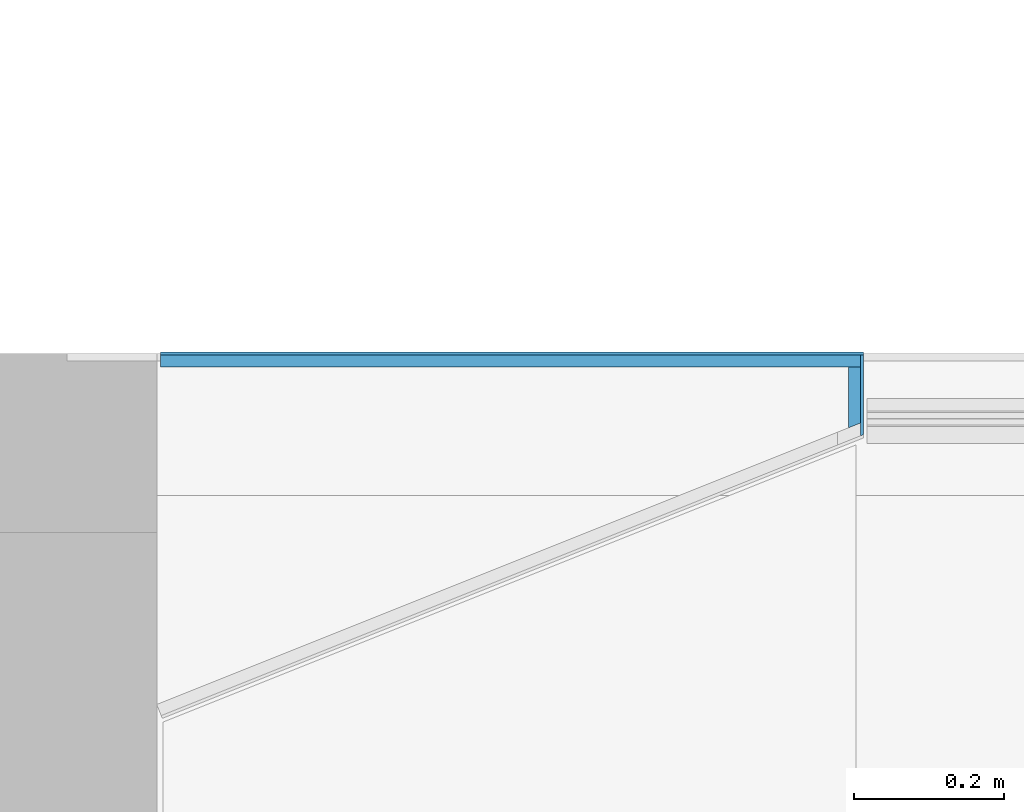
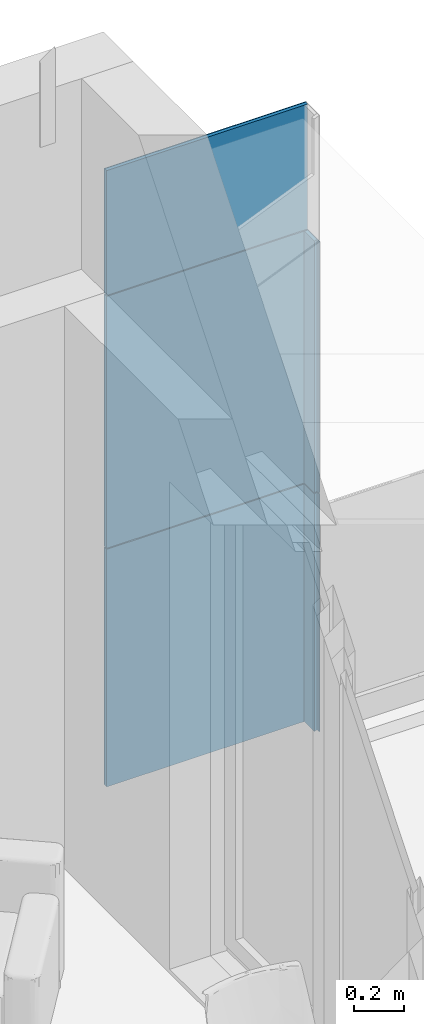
# One storey, part 13 of 57: 10 building element parts, 2 elements without a shape of their own.
"""IFC2X3 building model written with IfcOpenShell, lengths in millimetres."""

import ifcopenshell
import ifcopenshell.guid

model = None  # the IFC model being written
_history = None  # IfcOwnerHistory: only IFC2X3 demands one
_inside = {}  # id of a spatial element -> (the spatial element, [elements in it])
_under = {}  # id of a project, library or spatial element -> (it, [spatial elements below it])
_declared = {}  # id of a project -> (the project, [libraries it declares])
_typed = {}  # id of a type object -> (the type object, [elements of that type])
_made_of = {}  # id of a material, layer set ... -> (it, [elements and type objects made of it])


def new_model(schema):
    """Start an empty IFC model of exactly this schema.

    Asked for "IFC4X3", IfcOpenShell would pick the latest addendum, in which some entities
    have other attributes; the version numbers below select the first issue.
    IFC2X3 requires an IfcOwnerHistory on every rooted entity: one is made here for all.
    """
    global model, _history
    if schema == "IFC4X3":
        model = ifcopenshell.file(schema_version=(4, 3, 0, 0))
    else:
        model = ifcopenshell.file(schema=schema)
    _inside.clear()
    _under.clear()
    _declared.clear()
    _typed.clear()
    _made_of.clear()
    _history = None
    if model.schema == "IFC2X3":
        org = make("IfcOrganization", Name="unknown")
        user = make(
            "IfcPersonAndOrganization",
            ThePerson=make("IfcPerson", FamilyName="unknown"),
            TheOrganization=org,
        )
        app = make(
            "IfcApplication",
            ApplicationDeveloper=org,
            Version="unknown",
            ApplicationFullName="unknown",
            ApplicationIdentifier="unknown",
        )
        _history = make(
            "IfcOwnerHistory",
            OwningUser=user,
            OwningApplication=app,
            ChangeAction="ADDED",
            CreationDate=0,
        )
    return model


def make(cls, **values):
    """One entity of the class cls with the attributes given. An attribute that is None is left unset."""
    return model.create_entity(
        cls, **{name: value for name, value in values.items() if value is not None}
    )


def entity(cls, *values):
    """Any entity or typed value of the class cls, its attributes in the order of the schema. None: left unset."""
    e = model.create_entity(cls)
    for i, value in enumerate(values):
        if value is not None:
            e[i] = value
    return e


def rooted(cls, **values):
    """An entity with a GlobalId (a new one), such as an element, a storey or a relation."""
    return make(cls, GlobalId=ifcopenshell.guid.new(), OwnerHistory=_history, **values)


def si_unit(unit_type, name, prefix=None):
    """IfcSIUnit, for example si_unit("LENGTHUNIT", "METRE", prefix="MILLI")."""
    return make("IfcSIUnit", UnitType=unit_type, Prefix=prefix, Name=name)


def converted_unit(unit_type, name, factor, base, dimensions=None, offset=None):
    """IfcConversionBasedUnit, such as the inch: factor (a typed value) times the base unit."""
    return make(
        "IfcConversionBasedUnit"
        if offset is None
        else "IfcConversionBasedUnitWithOffset",
        ConversionOffset=offset,
        Dimensions=None
        if dimensions is None
        else entity("IfcDimensionalExponents", *dimensions),
        UnitType=unit_type,
        Name=name,
        ConversionFactor=make(
            "IfcMeasureWithUnit", ValueComponent=factor, UnitComponent=base
        ),
    )


def assignment(units):
    """IfcUnitAssignment: the units of a project."""
    return None if units is None else make("IfcUnitAssignment", Units=units)


def point(xyz):
    """IfcCartesianPoint."""
    return None if xyz is None else make("IfcCartesianPoint", Coordinates=xyz)


def direction(xyz):
    """IfcDirection."""
    return None if xyz is None else make("IfcDirection", DirectionRatios=xyz)


def frame(location, z_axis=None, x_axis=None):
    """IfcAxis2Placement3D, a coordinate frame: its origin and axes. An axis left out is left unset."""
    return make(
        "IfcAxis2Placement3D",
        Location=point(location),
        Axis=direction(z_axis),
        RefDirection=direction(x_axis),
    )


def frame_2d(location, x_axis=None):
    """IfcAxis2Placement2D, a coordinate frame in the plane: its origin and x axis."""
    return make(
        "IfcAxis2Placement2D", Location=point(location), RefDirection=direction(x_axis)
    )


def origin():
    """The frame at (0, 0, 0) with its axes left unset."""
    return frame((0.0, 0.0, 0.0))


def origin_2d_with_axis():
    """The frame at (0, 0) in the plane with the x axis (1, 0) written out."""
    return frame_2d((0.0, 0.0), x_axis=(1.0, 0.0))


def place(relative_to, where):
    """IfcLocalPlacement: puts the frame where relative to a parent placement (None: the world)."""
    return make(
        "IfcLocalPlacement", PlacementRelTo=relative_to, RelativePlacement=where
    )


def context(
    kind, dimensions, precision=None, world=None, true_north=None, identifier=None
):
    """IfcGeometricRepresentationContext, for example the 3D "Model" context."""
    return make(
        "IfcGeometricRepresentationContext",
        ContextIdentifier=identifier,
        ContextType=kind,
        CoordinateSpaceDimension=dimensions,
        Precision=precision,
        WorldCoordinateSystem=world,
        TrueNorth=true_north,
    )


def subcontext(parent, identifier, kind, view, scale=None):
    """IfcGeometricRepresentationSubContext, for example "Body" below "Model"."""
    return make(
        "IfcGeometricRepresentationSubContext",
        ContextIdentifier=identifier,
        ContextType=kind,
        ParentContext=parent,
        TargetScale=scale,
        TargetView=view,
    )


def project(units=None, contexts=None):
    """IfcProject with its units and contexts."""
    return rooted(
        "IfcProject",
        Name="project",
        RepresentationContexts=contexts,
        UnitsInContext=assignment(units),
    )


def spatial(cls, under=None, at=None, **own):
    """A site, building, storey or space (cls), placed at a placement, below another one or the project."""
    s = rooted(cls, ObjectPlacement=at, **own)
    if under is not None:
        _under.setdefault(under.id(), (under, []))[1].append(s)
    return s


def polyline(points):
    """IfcPolyline through the points."""
    return make("IfcPolyline", Points=[point(p) for p in points])


def profile(cls, at=None, kind="AREA", **sizes):
    """A parametric profile (cls). Its sizes go by their IFC names, for example OverallWidth=200.0."""
    return make(cls, ProfileType=kind, Position=at, **sizes)


def rectangle(**sizes):
    """IfcRectangleProfileDef."""
    return profile("IfcRectangleProfileDef", **sizes)


def outline(outer, holes=None, kind="AREA"):
    """IfcArbitraryClosedProfileDef: a profile drawn as a closed curve; with holes, ...WithVoids."""
    if holes is None:
        return make("IfcArbitraryClosedProfileDef", ProfileType=kind, OuterCurve=outer)
    return make(
        "IfcArbitraryProfileDefWithVoids",
        ProfileType=kind,
        OuterCurve=outer,
        InnerCurves=holes,
    )


def extrude(swept, where, along, depth):
    """IfcExtrudedAreaSolid: the profile swept, set in the frame where, extruded along a direction by depth."""
    return make(
        "IfcExtrudedAreaSolid",
        SweptArea=swept,
        Position=where,
        ExtrudedDirection=direction(along),
        Depth=depth,
    )


def shape(context_of_items, identifier, shape_type, items):
    """IfcShapeRepresentation: the items that make up one representation, for example the "Body"."""
    return make(
        "IfcShapeRepresentation",
        ContextOfItems=context_of_items,
        RepresentationIdentifier=identifier,
        RepresentationType=shape_type,
        Items=items,
    )


def material(Name=None, Category=None):
    """IfcMaterial."""
    return make("IfcMaterial", Name=Name, Category=Category)


def made_of(thing, what):
    """Note that an element or type object is made of a material, layer set ...; save() writes the relation."""
    if what is not None:
        _made_of.setdefault(what.id(), (what, []))[1].append(thing)
    return thing


def type_object(cls, material=None, **own):
    """A type object (cls), such as IfcWallType, which elements share."""
    return made_of(rooted(cls, **own), material)


def element(
    cls,
    number,
    at=None,
    inside=None,
    cuts=None,
    type_object=None,
    material=None,
    context=None,
    identifier="Body",
    shape_type=None,
    held_by="IfcProductDefinitionShape",
    body=None,
    shapes=None,
    **own,
):
    """One element of the class cls, such as IfcWall. Its Tag is "e" and its number.

    at: its placement. inside: the storey or other place that contains it. cuts: it is an
    opening in that element (IfcRelVoidsElement). A single representation is given by context,
    identifier, shape_type and body (its items); several are given by shapes. held_by: the class
    of the entity that holds the representations. save() writes the other relations.
    """
    e = rooted(cls, Tag="e%d" % number, ObjectPlacement=at, **own)
    if body is not None:
        shapes = [shape(context, identifier, shape_type, body)]
    if shapes is not None:
        e.Representation = make(held_by, Representations=shapes)
    if inside is not None:
        _inside.setdefault(inside.id(), (inside, []))[1].append(e)
    if cuts is not None:
        rooted(
            "IfcRelVoidsElement", RelatingBuildingElement=cuts, RelatedOpeningElement=e
        )
    if type_object is not None:
        _typed.setdefault(type_object.id(), (type_object, []))[1].append(e)
    return made_of(e, material)


def aggregate(whole, parts):
    """IfcRelAggregates: a whole, such as a stair, and the parts it consists of."""
    return rooted("IfcRelAggregates", RelatingObject=whole, RelatedObjects=parts)


def save(model, path):
    """Write the relations noted so far, then the file.

    IfcRelAggregates (storeys below a building ...), IfcRelContainedInSpatialStructure (elements
    in a storey), IfcRelDefinesByType, IfcRelAssociatesMaterial and IfcRelDeclares: one each for
    every whole, place, type object, material and project.
    """
    for whole, parts in _under.values():
        aggregate(whole, parts)
    for where, things in _inside.values():
        rooted(
            "IfcRelContainedInSpatialStructure",
            RelatedElements=things,
            RelatingStructure=where,
        )
    for kind, things in _typed.values():
        rooted("IfcRelDefinesByType", RelatedObjects=things, RelatingType=kind)
    for what, things in _made_of.values():
        rooted("IfcRelAssociatesMaterial", RelatedObjects=things, RelatingMaterial=what)
    for by, libraries in _declared.values():
        rooted("IfcRelDeclares", RelatingContext=by, RelatedDefinitions=libraries)
    model.write(path)


model = new_model("IFC2X3")

# Units and contexts
model_context = context("Model", 3, precision=0.01, world=origin(), true_north=direction((6.123233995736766e-17, 1.0)))
plan_context = context("Plan", 3, precision=0.01, world=origin(), true_north=direction((6.123233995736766e-17, 1.0)))
body_context = subcontext(model_context, "Body", "Model", "MODEL_VIEW")
ifc_project = project(units=[si_unit("LENGTHUNIT", "METRE", prefix="MILLI"), converted_unit("PLANEANGLEUNIT", "DEGREE", entity("IfcPlaneAngleMeasure", 0.017453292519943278), si_unit("PLANEANGLEUNIT", "RADIAN"), dimensions=[0, 0, 0, 0, 0, 0, 0]), si_unit("AREAUNIT", "SQUARE_METRE")], contexts=[model_context, plan_context])

# Site, building, storey
site_placement = place(None, origin())
site = spatial("IfcSite", under=ifc_project, at=site_placement, Name="Default", CompositionType="ELEMENT")
building_placement = place(site_placement, origin())
building = spatial("IfcBuilding", under=site, at=building_placement, CompositionType="ELEMENT")
storey_placement = place(building_placement, frame((0.0, 0.0, 12811.000000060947)))
storey = spatial("IfcBuildingStorey", under=building, at=storey_placement, Name="5K", CompositionType="ELEMENT", Elevation=12811.000000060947)

# Wall, building element parts
wall_type = type_object("IfcWallType", Name="Basic Wall:VS-komposiit", PredefinedType="STANDARD")
wall_1_placement = place(storey_placement, frame((13275.061891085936, 15821.996588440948, -20.0), z_axis=(0.0, 0.0, 1.0), x_axis=(-1.0, 0.0, 0.0)))
wall_1 = element("IfcWall", 1, at=wall_1_placement, inside=storey, type_object=wall_type, Name="Basic Wall:VS-komposiit", ObjectType="Basic Wall:VS-komposiit")
ifc_material_1 = material(Name="_K. Välisviimistlus. Alumiinium-komposiitplaat")
building_element_part_1_placement = place(wall_1_placement, origin())
building_element_part_1 = element("IfcBuildingElementPart", 2, at=building_element_part_1_placement, material=ifc_material_1, Name="Part", context=body_context, shape_type="SweptSolid", body=[
    extrude(rectangle(XDim=3.9999999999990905, YDim=940.0618910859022, at=origin_2d_with_axis()), frame((470.0309455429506, -8.0, 2420.0), z_axis=(0.0, 0.0, 1.0), x_axis=(0.0, 1.0, 0.0)), (0.0, 0.0, 1.0), 614.9999999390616),
])
ifc_material_2 = material(Name="_K. Õhk. Roov. Fassaadikatte alusroov. Horisontaalne. 25 mm")
building_element_part_2_placement = place(wall_1_placement, origin())
building_element_part_2 = element("IfcBuildingElementPart", 3, at=building_element_part_2_placement, material=ifc_material_2, Name="Part", context=body_context, shape_type="SweptSolid", body=[
    extrude(rectangle(XDim=16.000000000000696, YDim=936.0618910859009, at=frame_2d((0.0, 1.0800249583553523e-12), x_axis=(1.0, 0.0))), frame((472.0309455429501, 2.0, 2420.0), z_axis=(0.0, 0.0, 1.0), x_axis=(0.0, 1.0, 0.0)), (0.0, 0.0, 1.0), 614.9999999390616),
])
building_element_part_3_placement = place(wall_1_placement, origin())
building_element_part_3 = element("IfcBuildingElementPart", 4, at=building_element_part_3_placement, material=ifc_material_2, Name="Part", context=body_context, shape_type="SweptSolid", body=[
    extrude(rectangle(XDim=16.000000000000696, YDim=936.0618910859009, at=frame_2d((0.0, 1.0800249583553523e-12), x_axis=(1.0, 0.0))), frame((472.0309455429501, 2.0, 0.0), z_axis=(0.0, 0.0, 1.0), x_axis=(0.0, 1.0, 0.0)), (0.0, 0.0, 1.0), 1169.9999999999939),
])
building_element_part_4_placement = place(wall_1_placement, origin())
building_element_part_4 = element("IfcBuildingElementPart", 5, at=building_element_part_4_placement, material=ifc_material_2, Name="Part", context=body_context, shape_type="SweptSolid", body=[
    extrude(rectangle(XDim=16.000000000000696, YDim=936.0618910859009, at=frame_2d((0.0, 1.0800249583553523e-12), x_axis=(1.0, 0.0))), frame((472.0309455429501, 2.0, 1175.0), z_axis=(0.0, 0.0, 1.0), x_axis=(0.0, 1.0, 0.0)), (0.0, 0.0, 1.0), 1240.0000000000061),
])
building_element_part_5_placement = place(wall_1_placement, origin())
building_element_part_5 = element("IfcBuildingElementPart", 6, at=building_element_part_5_placement, material=ifc_material_1, Name="Part", context=body_context, shape_type="SweptSolid", body=[
    extrude(rectangle(XDim=3.9999999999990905, YDim=940.0618910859, at=frame_2d((0.0, 1.0800249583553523e-12), x_axis=(1.0, 0.0))), frame((470.0309455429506, -8.0, 0.0), z_axis=(0.0, 0.0, 1.0), x_axis=(0.0, 1.0, 0.0)), (0.0, 0.0, 1.0), 1169.9999999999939),
])
building_element_part_6_placement = place(wall_1_placement, origin())
building_element_part_6 = element("IfcBuildingElementPart", 7, at=building_element_part_6_placement, material=ifc_material_1, Name="Part", context=body_context, shape_type="SweptSolid", body=[
    extrude(rectangle(XDim=3.9999999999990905, YDim=940.0618910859, at=frame_2d((0.0, 1.0800249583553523e-12), x_axis=(1.0, 0.0))), frame((470.0309455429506, -8.0, 1175.0), z_axis=(0.0, 0.0, 1.0), x_axis=(0.0, 1.0, 0.0)), (0.0, 0.0, 1.0), 1240.0000000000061),
])
aggregate(wall_1, [building_element_part_1, building_element_part_2, building_element_part_3, building_element_part_4, building_element_part_5, building_element_part_6])

wall_2_placement = place(storey_placement, frame((13265.061891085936, 15730.397162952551, -20.0), z_axis=(0.0, 0.0, 1.0), x_axis=(0.0, 1.0, 0.0)))
wall_2 = element("IfcWall", 8, at=wall_2_placement, inside=storey, type_object=wall_type, Name="Basic Wall:VS-komposiit", ObjectType="Basic Wall:VS-komposiit")
building_element_part_7_placement = place(wall_2_placement, origin())
building_element_part_7 = element("IfcBuildingElementPart", 9, at=building_element_part_7_placement, material=ifc_material_2, Name="Part", context=body_context, shape_type="SweptSolid", body=[
    extrude(outline(polyline([(-39.19949941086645, -8.0), (42.39992607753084, -8.0), (35.99907274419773, 8.0), (-39.19949941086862, 8.0), (-39.19949941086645, -8.0)])), frame((42.39992607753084, 2.0, 1175.0), z_axis=(0.0, 0.0, 1.0), x_axis=(-1.0, 0.0, 0.0)), (0.0, 0.0, 1.0), 1240.000000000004),
])
building_element_part_8_placement = place(wall_2_placement, origin())
building_element_part_8 = element("IfcBuildingElementPart", 10, at=building_element_part_8_placement, material=ifc_material_2, Name="Part", context=body_context, shape_type="SweptSolid", body=[
    extrude(outline(polyline([(-39.19949941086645, -8.0), (42.39992607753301, -8.0), (35.99907274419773, 8.0), (-39.199499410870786, 8.0), (-39.19949941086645, -8.0)])), frame((42.39992607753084, 2.0, 0.0), z_axis=(0.0, 0.0, 1.0), x_axis=(-1.0, 0.0, 0.0)), (0.0, 0.0, 1.0), 1169.9999999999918),
])
building_element_part_9_placement = place(wall_2_placement, origin())
building_element_part_9 = element("IfcBuildingElementPart", 11, at=building_element_part_9_placement, material=ifc_material_1, Name="Part", context=body_context, shape_type="SweptSolid", body=[
    extrude(outline(polyline([(-53.81565490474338, -2.0), (54.61576157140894, -2.0), (53.01554823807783, 2.0), (-53.81565490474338, 2.0), (-53.81565490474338, -2.0)])), frame((43.78377058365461, -8.0, 1175.0), z_axis=(0.0, 0.0, 1.0), x_axis=(-1.0, 0.0, 0.0)), (0.0, 0.0, 1.0), 1240.000000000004),
])
building_element_part_10_placement = place(wall_2_placement, origin())
building_element_part_10 = element("IfcBuildingElementPart", 12, at=building_element_part_10_placement, material=ifc_material_1, Name="Part", context=body_context, shape_type="SweptSolid", body=[
    extrude(outline(polyline([(-53.81565490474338, -2.0), (54.61576157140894, -2.0), (53.01554823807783, 2.0), (-53.81565490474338, 2.0), (-53.81565490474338, -2.0)])), frame((43.78377058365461, -8.0, 0.0), z_axis=(0.0, 0.0, 1.0), x_axis=(-1.0, 0.0, 0.0)), (0.0, 0.0, 1.0), 1169.9999999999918),
])
aggregate(wall_2, [building_element_part_7, building_element_part_8, building_element_part_9, building_element_part_10])

save(model, "model.ifc")
